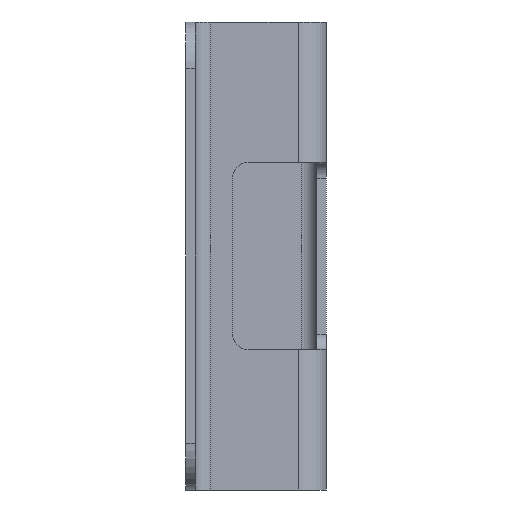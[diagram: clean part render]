
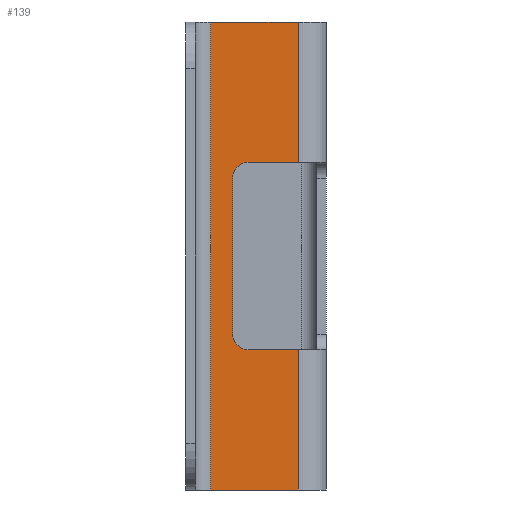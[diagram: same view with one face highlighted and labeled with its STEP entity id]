
A CAD part, front view. The second image highlights one B-rep face of the part: STEP entity #139.
In plain terms, the highlighted planar face has unit normal (0, -1, 0).
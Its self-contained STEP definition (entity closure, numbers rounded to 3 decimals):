
#139 = ADVANCED_FACE( '', ( #309 ), #310, .F. );
#309 = FACE_OUTER_BOUND( '', #507, .T. );
#310 = PLANE( '', #508 );
#507 = EDGE_LOOP( '', ( #889, #890, #891, #892, #893, #894, #895, #896, #897, #898 ) );
#508 = AXIS2_PLACEMENT_3D( '', #899, #900, #901 );
#889 = ORIENTED_EDGE( '', *, *, #1312, .F. );
#890 = ORIENTED_EDGE( '', *, *, #1258, .T. );
#891 = ORIENTED_EDGE( '', *, *, #1249, .T. );
#892 = ORIENTED_EDGE( '', *, *, #1212, .T. );
#893 = ORIENTED_EDGE( '', *, *, #1263, .F. );
#894 = ORIENTED_EDGE( '', *, *, #1207, .T. );
#895 = ORIENTED_EDGE( '', *, *, #1200, .T. );
#896 = ORIENTED_EDGE( '', *, *, #1313, .T. );
#897 = ORIENTED_EDGE( '', *, *, #1314, .T. );
#898 = ORIENTED_EDGE( '', *, *, #1315, .T. );
#899 = CARTESIAN_POINT( '', ( -33.331, -57.718, 150. ) );
#900 = DIRECTION( '', ( 0., 1., 0. ) );
#901 = DIRECTION( '', ( 0., 0., 1. ) );
#1200 = EDGE_CURVE( '', #1457, #1455, #1458, .T. );
#1207 = EDGE_CURVE( '', #1465, #1457, #1468, .T. );
#1212 = EDGE_CURVE( '', #1471, #1475, #1477, .F. );
#1249 = EDGE_CURVE( '', #1538, #1471, #1539, .T. );
#1258 = EDGE_CURVE( '', #1550, #1538, #1551, .T. );
#1263 = EDGE_CURVE( '', #1465, #1475, #1557, .T. );
#1312 = EDGE_CURVE( '', #1550, #1629, #1630, .T. );
#1313 = EDGE_CURVE( '', #1455, #1631, #1632, .F. );
#1314 = EDGE_CURVE( '', #1631, #1633, #1634, .T. );
#1315 = EDGE_CURVE( '', #1633, #1629, #1635, .T. );
#1455 = VERTEX_POINT( '', #1809 );
#1457 = VERTEX_POINT( '', #1811 );
#1458 = LINE( '', #1812, #1813 );
#1465 = VERTEX_POINT( '', #1820 );
#1468 = LINE( '', #1824, #1825 );
#1471 = VERTEX_POINT( '', #1828 );
#1475 = VERTEX_POINT( '', #1833 );
#1477 = LINE( '', #1835, #1836 );
#1538 = VERTEX_POINT( '', #1916 );
#1539 = LINE( '', #1917, #1918 );
#1550 = VERTEX_POINT( '', #1935 );
#1551 = CIRCLE( '', #1936, 5. );
#1557 = LINE( '', #1945, #1946 );
#1629 = VERTEX_POINT( '', #2040 );
#1630 = LINE( '', #2041, #2042 );
#1631 = VERTEX_POINT( '', #2043 );
#1632 = LINE( '', #2044, #2045 );
#1633 = VERTEX_POINT( '', #2046 );
#1634 = LINE( '', #2047, #2048 );
#1635 = CIRCLE( '', #2049, 5. );
#1809 = CARTESIAN_POINT( '', ( -0.331, -57.718, 0. ) );
#1811 = CARTESIAN_POINT( '', ( -28.331, -57.718, 0. ) );
#1812 = CARTESIAN_POINT( '', ( -33.331, -57.718, 0. ) );
#1813 = VECTOR( '', #2213, 1000. );
#1820 = CARTESIAN_POINT( '', ( -28.331, -57.718, 150. ) );
#1824 = CARTESIAN_POINT( '', ( -28.331, -57.718, 0. ) );
#1825 = VECTOR( '', #2224, 1000. );
#1828 = CARTESIAN_POINT( '', ( -0.331, -57.718, 105. ) );
#1833 = CARTESIAN_POINT( '', ( -0.331, -57.718, 150. ) );
#1835 = CARTESIAN_POINT( '', ( -0.331, -57.718, 150. ) );
#1836 = VECTOR( '', #2232, 1000. );
#1916 = CARTESIAN_POINT( '', ( -16.331, -57.718, 105. ) );
#1917 = CARTESIAN_POINT( '', ( -33.331, -57.718, 105. ) );
#1918 = VECTOR( '', #2279, 1000. );
#1935 = CARTESIAN_POINT( '', ( -21.331, -57.718, 100. ) );
#1936 = AXIS2_PLACEMENT_3D( '', #2286, #2287, #2288 );
#1945 = CARTESIAN_POINT( '', ( -33.331, -57.718, 150. ) );
#1946 = VECTOR( '', #2292, 1000. );
#2040 = CARTESIAN_POINT( '', ( -21.331, -57.718, 50. ) );
#2041 = CARTESIAN_POINT( '', ( -21.331, -57.718, 150. ) );
#2042 = VECTOR( '', #2366, 1000. );
#2043 = CARTESIAN_POINT( '', ( -0.331, -57.718, 45. ) );
#2044 = CARTESIAN_POINT( '', ( -0.331, -57.718, 150. ) );
#2045 = VECTOR( '', #2367, 1000. );
#2046 = CARTESIAN_POINT( '', ( -16.331, -57.718, 45. ) );
#2047 = CARTESIAN_POINT( '', ( -33.331, -57.718, 45. ) );
#2048 = VECTOR( '', #2368, 1000. );
#2049 = AXIS2_PLACEMENT_3D( '', #2369, #2370, #2371 );
#2213 = DIRECTION( '', ( 1., 0., 0. ) );
#2224 = DIRECTION( '', ( 0., 0., -1. ) );
#2232 = DIRECTION( '', ( 0., 0., -1. ) );
#2279 = DIRECTION( '', ( 1., 0., 0. ) );
#2286 = CARTESIAN_POINT( '', ( -16.331, -57.718, 100. ) );
#2287 = DIRECTION( '', ( 0., 1., 0. ) );
#2288 = DIRECTION( '', ( 0., 0., 1. ) );
#2292 = DIRECTION( '', ( 1., 0., 0. ) );
#2366 = DIRECTION( '', ( 0., 0., -1. ) );
#2367 = DIRECTION( '', ( 0., 0., -1. ) );
#2368 = DIRECTION( '', ( -1., 0., 0. ) );
#2369 = CARTESIAN_POINT( '', ( -16.331, -57.718, 50. ) );
#2370 = DIRECTION( '', ( 0., 1., 0. ) );
#2371 = DIRECTION( '', ( 0., 0., 1. ) );
